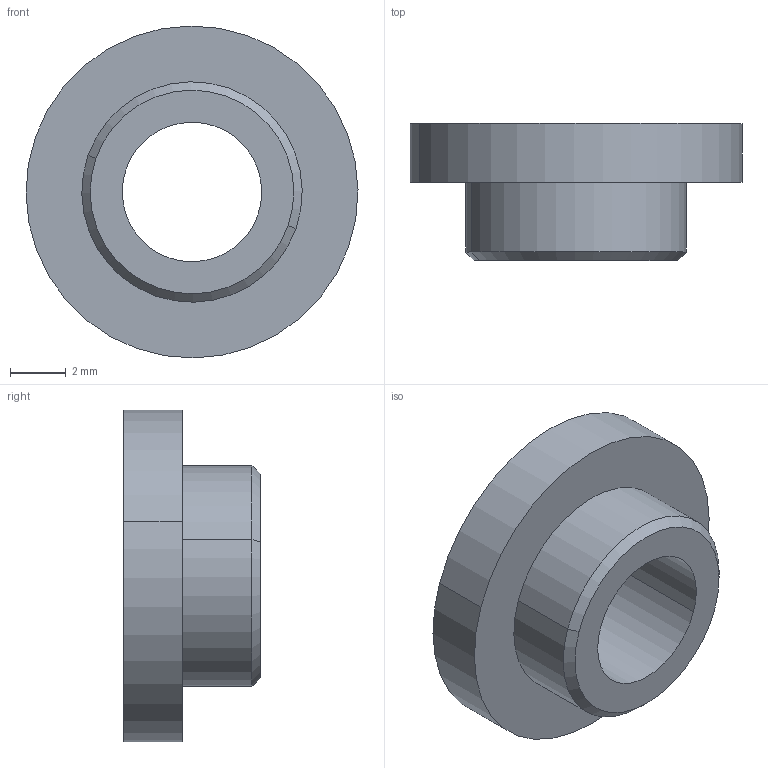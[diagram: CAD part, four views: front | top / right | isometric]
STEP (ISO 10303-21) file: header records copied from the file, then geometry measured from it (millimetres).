
FILE_DESCRIPTION (( 'STEP AP214' ), '1' );
FILE_NAME ('YIS40D-GS-06 Ãàéêà ñòàëüíàÿ êðóãëàÿ Ì6.STEP', '2025-09-04T08:16:01', ( '' ), ( '' ), 'SwSTEP 2.0', 'SolidWorks 2023', '' );
FILE_SCHEMA (( 'AUTOMOTIVE_DESIGN' ));
Length unit declared in the file: millimetre
Products named in the file (1): YIS40D-GS-06 Гайка стальная круглая М6
Bounding box: 11.9 x 4.9 x 11.9 mm (x, y, z)
Volume: 273.5 mm3; surface area: 403.7 mm2
Topology: 1 solids, 1 shells, 11 faces, 22 edges, 14 vertices
Faces by surface type: cylinder 6, plane 3, cone 2
Entity records: 321 total; most frequent: DIRECTION 60, CARTESIAN_POINT 48, ORIENTED_EDGE 44, AXIS2_PLACEMENT_3D 26, EDGE_CURVE 22, CIRCLE 14, EDGE_LOOP 14, VERTEX_POINT 14
